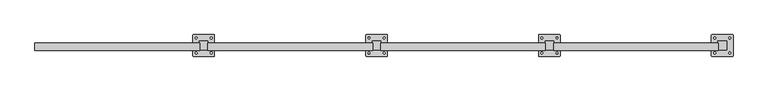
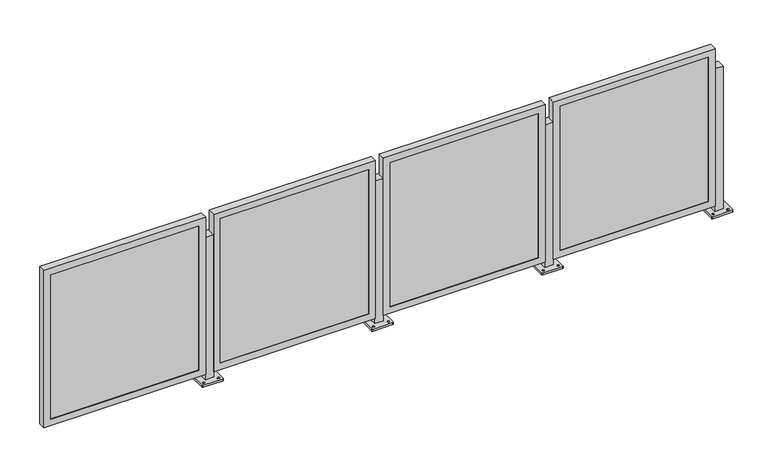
"""IFC4 building model written with IfcOpenShell, lengths in millimetres: railing geometry."""

from ifc_helpers import new_model, si_unit, frame, origin, place, context, project, spatial, polyline, circle_curve, outline, extrude, faceted_brep, source, transform, mapped, element, save
from ifc_brep_helpers import plane_surface, cylinder_surface, revolved_surface, advanced_brep


def railing_d92950a9(model_context):
    return source(origin(), model_context, "Body", "SolidModel", [
        advanced_brep(
        [(-3174.6460435, -9692.6420964, 914.4), (-3174.6460435, -9743.4420964, 914.4), (-3123.8460435, -9743.4420964, 914.4), (-3123.8460435, -9692.6420964, 914.4), (-3212.7460437, -9778.3670554, 0.0), (-3212.7460437, -9657.7171374, 0.0), (-3209.5710155, -9654.5421093, 0.0), (-3088.9210715, -9654.5421093, 0.0), (-3085.7460433, -9657.7171374, 0.0), (-3085.7460433, -9778.3670554, 0.0), (-3088.9210715, -9781.5420835, 0.0), (-3209.5710155, -9781.5420835, 0.0), (-3193.6960311, -9768.0483511, 0.0), (-3193.6960311, -9756.9358386, 0.0), (-3193.696042, -9679.1483467, 0.0), (-3193.696042, -9668.0358651, 0.0), (-3104.7960301, -9768.0483495, 0.0), (-3104.7960301, -9756.9358389, 0.0), (-3104.796041, -9679.1483452, 0.0), (-3104.796041, -9668.0358654, 0.0), (-3174.6460435, -9692.6420964, 12.7), (-3174.6460435, -9743.4420964, 12.7), (-3123.8460435, -9743.4420964, 12.7), (-3123.8460435, -9692.6420964, 12.7), (-3212.7460437, -9778.3670554, 12.7), (-3209.5710155, -9781.5420835, 12.7), (-3088.9210715, -9781.5420835, 12.7), (-3085.7460433, -9778.3670554, 12.7), (-3085.7460433, -9657.7171374, 12.7), (-3088.9210715, -9654.5421093, 12.7), (-3209.5710155, -9654.5421093, 12.7), (-3212.7460437, -9657.7171374, 12.7), (-3193.6960311, -9768.0483511, 12.7), (-3193.6960311, -9756.9358386, 12.7), (-3193.696042, -9679.1483467, 12.7), (-3193.696042, -9668.0358651, 12.7), (-3104.7960301, -9768.0483495, 12.7), (-3104.7960301, -9756.9358389, 12.7), (-3104.796041, -9679.1483452, 12.7), (-3104.796041, -9668.0358654, 12.7)],
        [
            (0, 1),
            (1, 2),
            (2, 3),
            (3, 0),
            (4, 5),
            (5, 6, circle_curve(frame((-3209.5710155, -9657.7171374, 0.0), z_axis=(0.0, 0.0, -1.0), x_axis=(0.0, 1.0, 0.0)), 3.1750282)),
            (6, 7),
            (7, 8, circle_curve(frame((-3088.9210715, -9657.7171374, 0.0), z_axis=(0.0, 0.0, -1.0), x_axis=(0.0, 1.0, 0.0)), 3.1750282)),
            (8, 9),
            (9, 10, circle_curve(frame((-3088.9210715, -9778.3670554, 0.0), z_axis=(0.0, 0.0, -1.0), x_axis=(0.0, 1.0, 0.0)), 3.1750282)),
            (10, 11),
            (11, 4, circle_curve(frame((-3209.5710155, -9778.3670554, 0.0), z_axis=(0.0, 0.0, -1.0), x_axis=(0.0, 1.0, 0.0)), 3.1750282)),
            (12, 13, circle_curve(frame((-3193.6960311, -9762.4920948, 0.0), z_axis=(0.0, 0.0, 1.0), x_axis=(0.0, 1.0, 0.0)), 5.5562562)),
            (13, 12, circle_curve(frame((-3193.6960311, -9762.4920948, 0.0), z_axis=(0.0, 0.0, 1.0), x_axis=(0.0, 1.0, 0.0)), 5.5562562)),
            (14, 15, circle_curve(frame((-3193.696042, -9673.5921059, 0.0), z_axis=(0.0, 0.0, 1.0), x_axis=(0.0, 1.0, 0.0)), 5.5562408)),
            (15, 14, circle_curve(frame((-3193.696042, -9673.5921059, 0.0), z_axis=(0.0, 0.0, 1.0), x_axis=(0.0, 1.0, 0.0)), 5.5562408)),
            (16, 17, circle_curve(frame((-3104.7960301, -9762.4920942, 0.0), z_axis=(0.0, 0.0, 1.0), x_axis=(0.0, 1.0, 0.0)), 5.5562553)),
            (17, 16, circle_curve(frame((-3104.7960301, -9762.4920942, 0.0), z_axis=(0.0, 0.0, 1.0), x_axis=(0.0, 1.0, 0.0)), 5.5562553)),
            (18, 19, circle_curve(frame((-3104.796041, -9673.5921053, 0.0), z_axis=(0.0, 0.0, 1.0), x_axis=(0.0, 1.0, 0.0)), 5.5562399)),
            (19, 18, circle_curve(frame((-3104.796041, -9673.5921053, 0.0), z_axis=(0.0, 0.0, 1.0), x_axis=(0.0, 1.0, 0.0)), 5.5562399)),
            (0, 20),
            (20, 21),
            (21, 1),
            (21, 22),
            (22, 2),
            (22, 23),
            (23, 3),
            (23, 20),
            (24, 25, circle_curve(frame((-3209.5710155, -9778.3670554, 12.7), z_axis=(0.0, 0.0, 1.0), x_axis=(0.0, 1.0, 0.0)), 3.1750282)),
            (25, 26),
            (26, 27, circle_curve(frame((-3088.9210715, -9778.3670554, 12.7), z_axis=(0.0, 0.0, 1.0), x_axis=(0.0, 1.0, 0.0)), 3.1750282)),
            (27, 28),
            (28, 29, circle_curve(frame((-3088.9210715, -9657.7171374, 12.7), z_axis=(0.0, 0.0, 1.0), x_axis=(0.0, 1.0, 0.0)), 3.1750282)),
            (29, 30),
            (30, 31, circle_curve(frame((-3209.5710155, -9657.7171374, 12.7), z_axis=(0.0, 0.0, 1.0), x_axis=(0.0, 1.0, 0.0)), 3.1750282)),
            (31, 24),
            (32, 33, circle_curve(frame((-3193.6960311, -9762.4920948, 12.7), z_axis=(0.0, 0.0, -1.0), x_axis=(0.0, 1.0, 0.0)), 5.5562562)),
            (33, 32, circle_curve(frame((-3193.6960311, -9762.4920948, 12.7), z_axis=(0.0, 0.0, -1.0), x_axis=(0.0, 1.0, 0.0)), 5.5562562)),
            (34, 35, circle_curve(frame((-3193.696042, -9673.5921059, 12.7), z_axis=(0.0, 0.0, -1.0), x_axis=(0.0, 1.0, 0.0)), 5.5562408)),
            (35, 34, circle_curve(frame((-3193.696042, -9673.5921059, 12.7), z_axis=(0.0, 0.0, -1.0), x_axis=(0.0, 1.0, 0.0)), 5.5562408)),
            (36, 37, circle_curve(frame((-3104.7960301, -9762.4920942, 12.7), z_axis=(0.0, 0.0, -1.0), x_axis=(0.0, 1.0, 0.0)), 5.5562553)),
            (37, 36, circle_curve(frame((-3104.7960301, -9762.4920942, 12.7), z_axis=(0.0, 0.0, -1.0), x_axis=(0.0, 1.0, 0.0)), 5.5562553)),
            (38, 39, circle_curve(frame((-3104.796041, -9673.5921053, 12.7), z_axis=(0.0, 0.0, -1.0), x_axis=(0.0, 1.0, 0.0)), 5.5562399)),
            (39, 38, circle_curve(frame((-3104.796041, -9673.5921053, 12.7), z_axis=(0.0, 0.0, -1.0), x_axis=(0.0, 1.0, 0.0)), 5.5562399)),
            (24, 4),
            (11, 25),
            (10, 26),
            (9, 27),
            (8, 28),
            (7, 29),
            (6, 30),
            (5, 31),
            (32, 12),
            (13, 33),
            (34, 14),
            (15, 35),
            (36, 16),
            (17, 37),
            (38, 18),
            (19, 39),
        ],
        [
            plane_surface(frame((-3174.6460435, -9743.4420964, 914.4), z_axis=(0.0, 0.0, 1.0), x_axis=(0.0, -1.0, 0.0))),
            plane_surface(frame((-3174.6460435, -9743.4420964, 0.0), z_axis=(0.0, 0.0, -1.0), x_axis=(0.0, 1.0, 0.0))),
            plane_surface(frame((-3174.6460435, -9692.6420964, 914.4), z_axis=(-1.0, 0.0, 0.0), x_axis=(0.0, 0.0, -1.0))),
            plane_surface(frame((-3174.6460435, -9743.4420964, 914.4), z_axis=(0.0, -1.0, 0.0), x_axis=(0.0, 0.0, -1.0))),
            plane_surface(frame((-3123.8460435, -9743.4420964, 914.4), z_axis=(1.0, 0.0, 0.0), x_axis=(0.0, 0.0, -1.0))),
            plane_surface(frame((-3123.8460435, -9692.6420964, 914.4), z_axis=(0.0, 1.0, 0.0), x_axis=(0.0, 0.0, -1.0))),
            plane_surface(frame((-3209.5710155, -9775.1920272, 12.7), z_axis=(0.0, 0.0, 1.0), x_axis=(-1.0, 0.0, 0.0))),
            cylinder_surface(frame((-3209.5710155, -9778.3670554, 0.0), z_axis=(0.0, 0.0, 1.0), x_axis=(0.0, 1.0, 0.0)), 3.1750282),
            plane_surface(frame((-3209.5710155, -9781.5420835, 12.7), z_axis=(1.1945386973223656e-12, -1.0, 0.0), x_axis=(0.0, 0.0, -1.0))),
            cylinder_surface(frame((-3088.9210715, -9778.3670554, 0.0), z_axis=(0.0, 0.0, 1.0), x_axis=(0.0, 1.0, 0.0)), 3.1750282),
            plane_surface(frame((-3085.7460433, -9778.3670554, 12.7), z_axis=(1.0, 0.0, 0.0), x_axis=(0.0, 0.0, -1.0))),
            cylinder_surface(frame((-3088.9210715, -9657.7171374, 0.0), z_axis=(0.0, 0.0, 1.0), x_axis=(0.0, 1.0, 0.0)), 3.1750282),
            plane_surface(frame((-3088.9210715, -9654.5421093, 12.7), z_axis=(-1.1946088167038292e-12, 1.0, 0.0), x_axis=(0.0, 0.0, -1.0))),
            cylinder_surface(frame((-3209.5710155, -9657.7171374, 0.0), z_axis=(0.0, 0.0, 1.0), x_axis=(0.0, 1.0, 0.0)), 3.1750282),
            plane_surface(frame((-3212.7460437, -9657.7171374, 12.7), z_axis=(-1.0, 0.0, 0.0), x_axis=(0.0, 0.0, -1.0))),
            revolved_surface(polyline([(-3193.6960311, -9756.9358386, 0.0), (-3193.6960311, -9756.9358386, 12.7)]), (-3193.6960311, -9762.4920948, 0.0), (0.0, 0.0, -1.0)),
            revolved_surface(polyline([(-3193.696042, -9668.035865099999, 0.0), (-3193.696042, -9668.035865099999, 12.7)]), (-3193.696042, -9673.5921059, 0.0), (0.0, 0.0, -1.0)),
            revolved_surface(polyline([(-3104.7960301, -9756.9358389, 0.0), (-3104.7960301, -9756.9358389, 12.7)]), (-3104.7960301, -9762.4920942, 0.0), (0.0, 0.0, -1.0)),
            revolved_surface(polyline([(-3104.796041, -9668.035865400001, 0.0), (-3104.796041, -9668.035865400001, 12.7)]), (-3104.796041, -9673.5921053, 0.0), (0.0, 0.0, -1.0)),
        ],
        [
            (0, [[1, 2, 3, 4]]),
            (1, [[5, 6, 7, 8, 9, 10, 11, 12], [13, 14], [15, 16], [17, 18], [19, 20]]),
            (2, [[-1, 21, 22, 23]]),
            (3, [[-2, -23, 24, 25]]),
            (4, [[-3, -25, 26, 27]]),
            (5, [[-4, -27, 28, -21]]),
            (6, [[29, 30, 31, 32, 33, 34, 35, 36], [-22, -28, -26, -24], [37, 38], [39, 40], [41, 42], [43, 44]]),
            (7, [[-29, 45, -12, 46]]),
            (8, [[-30, -46, -11, 47]]),
            (9, [[-31, -47, -10, 48]]),
            (10, [[-32, -48, -9, 49]]),
            (11, [[-33, -49, -8, 50]]),
            (12, [[-34, -50, -7, 51]]),
            (13, [[-35, -51, -6, 52]]),
            (14, [[-36, -52, -5, -45]]),
            (15, [[-37, 53, -14, 54]]),
            (15, [[-38, -54, -13, -53]]),
            (16, [[-39, 55, -16, 56]]),
            (16, [[-40, -56, -15, -55]]),
            (17, [[-41, 57, -18, 58]]),
            (17, [[-42, -58, -17, -57]]),
            (18, [[-43, 59, -20, 60]]),
            (18, [[-44, -60, -19, -59]]),
        ],
    ),
        faceted_brep([(-4141.0504969, -9746.1852964, 47.625), (-3172.6754969, -9746.1852964, 47.625), (-3172.6754969, -9746.1852964, 1044.575), (-4141.0504969, -9746.1852964, 1044.575), (-4099.7754969, -9746.1852964, 1003.3), (-3213.9504969, -9746.1852964, 1003.3), (-3213.9504969, -9746.1852964, 88.9), (-4099.7754969, -9746.1852964, 88.9), (-4099.7754969, -9743.4420964, 1003.3), (-4099.7754969, -9743.4420964, 88.9), (-4141.0504969, -9702.3119999, 1044.575), (-4141.0504969, -9702.3119999, 47.625), (-4137.8754969, -9702.3119999, 1041.4), (-4137.8754969, -9743.4420964, 1041.4), (-4137.8754969, -9743.4420964, 50.8), (-4137.8754969, -9702.3119999, 50.8), (-3213.9504969, -9743.4420964, 88.9), (-3172.6754969, -9702.3119999, 47.625), (-3175.8504969, -9743.4420964, 50.8), (-3175.8504969, -9702.3119999, 50.8), (-3213.9504969, -9743.4420964, 1003.3), (-3172.6754969, -9702.3119999, 1044.575), (-3175.8504969, -9743.4420964, 1041.4), (-3175.8504969, -9702.3119999, 1041.4)], [[[0, 1, 2, 3], [4, 5, 6, 7]], [[8, 4, 7, 9]], [[3, 10, 11, 0]], [[12, 13, 14, 15]], [[9, 7, 6, 16]], [[0, 11, 17, 1]], [[15, 14, 18, 19]], [[16, 6, 5, 20]], [[1, 17, 21, 2]], [[19, 18, 22, 23]], [[20, 5, 4, 8]], [[10, 21, 17, 11], [15, 19, 23, 12]], [[2, 21, 10, 3]], [[13, 22, 18, 14], [9, 16, 20, 8]], [[23, 22, 13, 12]]]),
        extrude(outline(polyline([(-4137.8754969, -9733.9170964), (-3175.8504969, -9733.9170964), (-3175.8504969, -9743.4420964), (-4137.8754969, -9743.4420964), (-4137.8754969, -9733.9170964)])), frame((0.0, 0.0, 50.8), z_axis=(0.0, 0.0, 1.0), x_axis=(1.0, 0.0, 0.0)), (0.0, 0.0, 1.0), 990.6),
        advanced_brep(
        [(-4190.6460435, -9692.6420964, 914.4), (-4190.6460435, -9743.4420964, 914.4), (-4139.8460435, -9743.4420964, 914.4), (-4139.8460435, -9692.6420964, 914.4), (-4228.7460437, -9778.3670554, 0.0), (-4228.7460437, -9657.7171374, 0.0), (-4225.5710155, -9654.5421093, 0.0), (-4104.9210715, -9654.5421093, 0.0), (-4101.7460433, -9657.7171374, 0.0), (-4101.7460433, -9778.3670554, 0.0), (-4104.9210715, -9781.5420835, 0.0), (-4225.5710155, -9781.5420835, 0.0), (-4209.6960311, -9768.0483511, 0.0), (-4209.6960311, -9756.9358386, 0.0), (-4209.696042, -9679.1483467, 0.0), (-4209.696042, -9668.0358651, 0.0), (-4120.7960301, -9768.0483495, 0.0), (-4120.7960301, -9756.9358389, 0.0), (-4120.796041, -9679.1483452, 0.0), (-4120.796041, -9668.0358654, 0.0), (-4190.6460435, -9692.6420964, 12.7), (-4190.6460435, -9743.4420964, 12.7), (-4139.8460435, -9743.4420964, 12.7), (-4139.8460435, -9692.6420964, 12.7), (-4228.7460437, -9778.3670554, 12.7), (-4225.5710155, -9781.5420835, 12.7), (-4104.9210715, -9781.5420835, 12.7), (-4101.7460433, -9778.3670554, 12.7), (-4101.7460433, -9657.7171374, 12.7), (-4104.9210715, -9654.5421093, 12.7), (-4225.5710155, -9654.5421093, 12.7), (-4228.7460437, -9657.7171374, 12.7), (-4209.6960311, -9768.0483511, 12.7), (-4209.6960311, -9756.9358386, 12.7), (-4209.696042, -9679.1483467, 12.7), (-4209.696042, -9668.0358651, 12.7), (-4120.7960301, -9768.0483495, 12.7), (-4120.7960301, -9756.9358389, 12.7), (-4120.796041, -9679.1483452, 12.7), (-4120.796041, -9668.0358654, 12.7)],
        [
            (0, 1),
            (1, 2),
            (2, 3),
            (3, 0),
            (4, 5),
            (5, 6, circle_curve(frame((-4225.5710155, -9657.7171374, 0.0), z_axis=(0.0, 0.0, -1.0), x_axis=(0.0, 1.0, 0.0)), 3.1750282)),
            (6, 7),
            (7, 8, circle_curve(frame((-4104.9210715, -9657.7171374, 0.0), z_axis=(0.0, 0.0, -1.0), x_axis=(0.0, 1.0, 0.0)), 3.1750282)),
            (8, 9),
            (9, 10, circle_curve(frame((-4104.9210715, -9778.3670554, 0.0), z_axis=(0.0, 0.0, -1.0), x_axis=(0.0, 1.0, 0.0)), 3.1750282)),
            (10, 11),
            (11, 4, circle_curve(frame((-4225.5710155, -9778.3670554, 0.0), z_axis=(0.0, 0.0, -1.0), x_axis=(0.0, 1.0, 0.0)), 3.1750282)),
            (12, 13, circle_curve(frame((-4209.6960311, -9762.4920948, 0.0), z_axis=(0.0, 0.0, 1.0), x_axis=(0.0, 1.0, 0.0)), 5.5562562)),
            (13, 12, circle_curve(frame((-4209.6960311, -9762.4920948, 0.0), z_axis=(0.0, 0.0, 1.0), x_axis=(0.0, 1.0, 0.0)), 5.5562562)),
            (14, 15, circle_curve(frame((-4209.696042, -9673.5921059, 0.0), z_axis=(0.0, 0.0, 1.0), x_axis=(0.0, 1.0, 0.0)), 5.5562408)),
            (15, 14, circle_curve(frame((-4209.696042, -9673.5921059, 0.0), z_axis=(0.0, 0.0, 1.0), x_axis=(0.0, 1.0, 0.0)), 5.5562408)),
            (16, 17, circle_curve(frame((-4120.7960301, -9762.4920942, 0.0), z_axis=(0.0, 0.0, 1.0), x_axis=(0.0, 1.0, 0.0)), 5.5562553)),
            (17, 16, circle_curve(frame((-4120.7960301, -9762.4920942, 0.0), z_axis=(0.0, 0.0, 1.0), x_axis=(0.0, 1.0, 0.0)), 5.5562553)),
            (18, 19, circle_curve(frame((-4120.796041, -9673.5921053, 0.0), z_axis=(0.0, 0.0, 1.0), x_axis=(0.0, 1.0, 0.0)), 5.5562399)),
            (19, 18, circle_curve(frame((-4120.796041, -9673.5921053, 0.0), z_axis=(0.0, 0.0, 1.0), x_axis=(0.0, 1.0, 0.0)), 5.5562399)),
            (0, 20),
            (20, 21),
            (21, 1),
            (21, 22),
            (22, 2),
            (22, 23),
            (23, 3),
            (23, 20),
            (24, 25, circle_curve(frame((-4225.5710155, -9778.3670554, 12.7), z_axis=(0.0, 0.0, 1.0), x_axis=(0.0, 1.0, 0.0)), 3.1750282)),
            (25, 26),
            (26, 27, circle_curve(frame((-4104.9210715, -9778.3670554, 12.7), z_axis=(0.0, 0.0, 1.0), x_axis=(0.0, 1.0, 0.0)), 3.1750282)),
            (27, 28),
            (28, 29, circle_curve(frame((-4104.9210715, -9657.7171374, 12.7), z_axis=(0.0, 0.0, 1.0), x_axis=(0.0, 1.0, 0.0)), 3.1750282)),
            (29, 30),
            (30, 31, circle_curve(frame((-4225.5710155, -9657.7171374, 12.7), z_axis=(0.0, 0.0, 1.0), x_axis=(0.0, 1.0, 0.0)), 3.1750282)),
            (31, 24),
            (32, 33, circle_curve(frame((-4209.6960311, -9762.4920948, 12.7), z_axis=(0.0, 0.0, -1.0), x_axis=(0.0, 1.0, 0.0)), 5.5562562)),
            (33, 32, circle_curve(frame((-4209.6960311, -9762.4920948, 12.7), z_axis=(0.0, 0.0, -1.0), x_axis=(0.0, 1.0, 0.0)), 5.5562562)),
            (34, 35, circle_curve(frame((-4209.696042, -9673.5921059, 12.7), z_axis=(0.0, 0.0, -1.0), x_axis=(0.0, 1.0, 0.0)), 5.5562408)),
            (35, 34, circle_curve(frame((-4209.696042, -9673.5921059, 12.7), z_axis=(0.0, 0.0, -1.0), x_axis=(0.0, 1.0, 0.0)), 5.5562408)),
            (36, 37, circle_curve(frame((-4120.7960301, -9762.4920942, 12.7), z_axis=(0.0, 0.0, -1.0), x_axis=(0.0, 1.0, 0.0)), 5.5562553)),
            (37, 36, circle_curve(frame((-4120.7960301, -9762.4920942, 12.7), z_axis=(0.0, 0.0, -1.0), x_axis=(0.0, 1.0, 0.0)), 5.5562553)),
            (38, 39, circle_curve(frame((-4120.796041, -9673.5921053, 12.7), z_axis=(0.0, 0.0, -1.0), x_axis=(0.0, 1.0, 0.0)), 5.5562399)),
            (39, 38, circle_curve(frame((-4120.796041, -9673.5921053, 12.7), z_axis=(0.0, 0.0, -1.0), x_axis=(0.0, 1.0, 0.0)), 5.5562399)),
            (24, 4),
            (11, 25),
            (10, 26),
            (9, 27),
            (8, 28),
            (7, 29),
            (6, 30),
            (5, 31),
            (32, 12),
            (13, 33),
            (34, 14),
            (15, 35),
            (36, 16),
            (17, 37),
            (38, 18),
            (19, 39),
        ],
        [
            plane_surface(frame((-4190.6460435, -9743.4420964, 914.4), z_axis=(0.0, 0.0, 1.0), x_axis=(0.0, -1.0, 0.0))),
            plane_surface(frame((-4190.6460435, -9743.4420964, 0.0), z_axis=(0.0, 0.0, -1.0), x_axis=(0.0, 1.0, 0.0))),
            plane_surface(frame((-4190.6460435, -9692.6420964, 914.4), z_axis=(-1.0, 0.0, 0.0), x_axis=(0.0, 0.0, -1.0))),
            plane_surface(frame((-4190.6460435, -9743.4420964, 914.4), z_axis=(0.0, -1.0, 0.0), x_axis=(0.0, 0.0, -1.0))),
            plane_surface(frame((-4139.8460435, -9743.4420964, 914.4), z_axis=(1.0, 0.0, 0.0), x_axis=(0.0, 0.0, -1.0))),
            plane_surface(frame((-4139.8460435, -9692.6420964, 914.4), z_axis=(0.0, 1.0, 0.0), x_axis=(0.0, 0.0, -1.0))),
            plane_surface(frame((-4225.5710155, -9775.1920272, 12.7), z_axis=(0.0, 0.0, 1.0), x_axis=(-1.0, 0.0, 0.0))),
            cylinder_surface(frame((-4225.5710155, -9778.3670554, 0.0), z_axis=(0.0, 0.0, 1.0), x_axis=(0.0, 1.0, 0.0)), 3.1750282),
            plane_surface(frame((-4225.5710155, -9781.5420835, 12.7), z_axis=(1.1945386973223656e-12, -1.0, 0.0), x_axis=(0.0, 0.0, -1.0))),
            cylinder_surface(frame((-4104.9210715, -9778.3670554, 0.0), z_axis=(0.0, 0.0, 1.0), x_axis=(0.0, 1.0, 0.0)), 3.1750282),
            plane_surface(frame((-4101.7460433, -9778.3670554, 12.7), z_axis=(1.0, 0.0, 0.0), x_axis=(0.0, 0.0, -1.0))),
            cylinder_surface(frame((-4104.9210715, -9657.7171374, 0.0), z_axis=(0.0, 0.0, 1.0), x_axis=(0.0, 1.0, 0.0)), 3.1750282),
            plane_surface(frame((-4104.9210715, -9654.5421093, 12.7), z_axis=(-1.1946088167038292e-12, 1.0, 0.0), x_axis=(0.0, 0.0, -1.0))),
            cylinder_surface(frame((-4225.5710155, -9657.7171374, 0.0), z_axis=(0.0, 0.0, 1.0), x_axis=(0.0, 1.0, 0.0)), 3.1750282),
            plane_surface(frame((-4228.7460437, -9657.7171374, 12.7), z_axis=(-1.0, 0.0, 0.0), x_axis=(0.0, 0.0, -1.0))),
            revolved_surface(polyline([(-4209.6960311, -9756.9358386, 0.0), (-4209.6960311, -9756.9358386, 12.7)]), (-4209.6960311, -9762.4920948, 0.0), (0.0, 0.0, -1.0)),
            revolved_surface(polyline([(-4209.696042, -9668.035865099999, 0.0), (-4209.696042, -9668.035865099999, 12.7)]), (-4209.696042, -9673.5921059, 0.0), (0.0, 0.0, -1.0)),
            revolved_surface(polyline([(-4120.7960301, -9756.9358389, 0.0), (-4120.7960301, -9756.9358389, 12.7)]), (-4120.7960301, -9762.4920942, 0.0), (0.0, 0.0, -1.0)),
            revolved_surface(polyline([(-4120.796041, -9668.035865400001, 0.0), (-4120.796041, -9668.035865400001, 12.7)]), (-4120.796041, -9673.5921053, 0.0), (0.0, 0.0, -1.0)),
        ],
        [
            (0, [[1, 2, 3, 4]]),
            (1, [[5, 6, 7, 8, 9, 10, 11, 12], [13, 14], [15, 16], [17, 18], [19, 20]]),
            (2, [[-1, 21, 22, 23]]),
            (3, [[-2, -23, 24, 25]]),
            (4, [[-3, -25, 26, 27]]),
            (5, [[-4, -27, 28, -21]]),
            (6, [[29, 30, 31, 32, 33, 34, 35, 36], [-22, -28, -26, -24], [37, 38], [39, 40], [41, 42], [43, 44]]),
            (7, [[-29, 45, -12, 46]]),
            (8, [[-30, -46, -11, 47]]),
            (9, [[-31, -47, -10, 48]]),
            (10, [[-32, -48, -9, 49]]),
            (11, [[-33, -49, -8, 50]]),
            (12, [[-34, -50, -7, 51]]),
            (13, [[-35, -51, -6, 52]]),
            (14, [[-36, -52, -5, -45]]),
            (15, [[-37, 53, -14, 54]]),
            (15, [[-38, -54, -13, -53]]),
            (16, [[-39, 55, -16, 56]]),
            (16, [[-40, -56, -15, -55]]),
            (17, [[-41, 57, -18, 58]]),
            (17, [[-42, -58, -17, -57]]),
            (18, [[-43, 59, -20, 60]]),
            (18, [[-44, -60, -19, -59]]),
        ],
    ),
        faceted_brep([(-5157.0504969, -9746.1852964, 47.625), (-4188.6754969, -9746.1852964, 47.625), (-4188.6754969, -9746.1852964, 1044.575), (-5157.0504969, -9746.1852964, 1044.575), (-5115.7754969, -9746.1852964, 1003.3), (-4229.9504969, -9746.1852964, 1003.3), (-4229.9504969, -9746.1852964, 88.9), (-5115.7754969, -9746.1852964, 88.9), (-5115.7754969, -9743.4420964, 1003.3), (-5115.7754969, -9743.4420964, 88.9), (-5157.0504969, -9702.3119999, 1044.575), (-5157.0504969, -9702.3119999, 47.625), (-5153.8754969, -9702.3119999, 1041.4), (-5153.8754969, -9743.4420964, 1041.4), (-5153.8754969, -9743.4420964, 50.8), (-5153.8754969, -9702.3119999, 50.8), (-4229.9504969, -9743.4420964, 88.9), (-4188.6754969, -9702.3119999, 47.625), (-4191.8504969, -9743.4420964, 50.8), (-4191.8504969, -9702.3119999, 50.8), (-4229.9504969, -9743.4420964, 1003.3), (-4188.6754969, -9702.3119999, 1044.575), (-4191.8504969, -9743.4420964, 1041.4), (-4191.8504969, -9702.3119999, 1041.4)], [[[0, 1, 2, 3], [4, 5, 6, 7]], [[8, 4, 7, 9]], [[3, 10, 11, 0]], [[12, 13, 14, 15]], [[9, 7, 6, 16]], [[0, 11, 17, 1]], [[15, 14, 18, 19]], [[16, 6, 5, 20]], [[1, 17, 21, 2]], [[19, 18, 22, 23]], [[20, 5, 4, 8]], [[10, 21, 17, 11], [15, 19, 23, 12]], [[2, 21, 10, 3]], [[13, 22, 18, 14], [9, 16, 20, 8]], [[23, 22, 13, 12]]]),
        extrude(outline(polyline([(-5153.8754969, -9733.9170964), (-4191.8504969, -9733.9170964), (-4191.8504969, -9743.4420964), (-5153.8754969, -9743.4420964), (-5153.8754969, -9733.9170964)])), frame((0.0, 0.0, 50.8), z_axis=(0.0, 0.0, 1.0), x_axis=(1.0, 0.0, 0.0)), (0.0, 0.0, 1.0), 990.6),
        advanced_brep(
        [(-5206.6460435, -9692.6420964, 914.4), (-5206.6460435, -9743.4420964, 914.4), (-5155.8460435, -9743.4420964, 914.4), (-5155.8460435, -9692.6420964, 914.4), (-5244.7460437, -9778.3670554, 0.0), (-5244.7460437, -9657.7171374, 0.0), (-5241.5710155, -9654.5421093, 0.0), (-5120.9210715, -9654.5421093, 0.0), (-5117.7460433, -9657.7171374, 0.0), (-5117.7460433, -9778.3670554, 0.0), (-5120.9210715, -9781.5420835, 0.0), (-5241.5710155, -9781.5420835, 0.0), (-5225.6960311, -9768.0483511, 0.0), (-5225.6960311, -9756.9358386, 0.0), (-5225.696042, -9679.1483467, 0.0), (-5225.696042, -9668.0358651, 0.0), (-5136.7960301, -9768.0483495, 0.0), (-5136.7960301, -9756.9358389, 0.0), (-5136.796041, -9679.1483452, 0.0), (-5136.796041, -9668.0358654, 0.0), (-5206.6460435, -9692.6420964, 12.7), (-5206.6460435, -9743.4420964, 12.7), (-5155.8460435, -9743.4420964, 12.7), (-5155.8460435, -9692.6420964, 12.7), (-5244.7460437, -9778.3670554, 12.7), (-5241.5710155, -9781.5420835, 12.7), (-5120.9210715, -9781.5420835, 12.7), (-5117.7460433, -9778.3670554, 12.7), (-5117.7460433, -9657.7171374, 12.7), (-5120.9210715, -9654.5421093, 12.7), (-5241.5710155, -9654.5421093, 12.7), (-5244.7460437, -9657.7171374, 12.7), (-5225.6960311, -9768.0483511, 12.7), (-5225.6960311, -9756.9358386, 12.7), (-5225.696042, -9679.1483467, 12.7), (-5225.696042, -9668.0358651, 12.7), (-5136.7960301, -9768.0483495, 12.7), (-5136.7960301, -9756.9358389, 12.7), (-5136.796041, -9679.1483452, 12.7), (-5136.796041, -9668.0358654, 12.7)],
        [
            (0, 1),
            (1, 2),
            (2, 3),
            (3, 0),
            (4, 5),
            (5, 6, circle_curve(frame((-5241.5710155, -9657.7171374, 0.0), z_axis=(0.0, 0.0, -1.0), x_axis=(0.0, 1.0, 0.0)), 3.1750282)),
            (6, 7),
            (7, 8, circle_curve(frame((-5120.9210715, -9657.7171374, 0.0), z_axis=(0.0, 0.0, -1.0), x_axis=(0.0, 1.0, 0.0)), 3.1750282)),
            (8, 9),
            (9, 10, circle_curve(frame((-5120.9210715, -9778.3670554, 0.0), z_axis=(0.0, 0.0, -1.0), x_axis=(0.0, 1.0, 0.0)), 3.1750282)),
            (10, 11),
            (11, 4, circle_curve(frame((-5241.5710155, -9778.3670554, 0.0), z_axis=(0.0, 0.0, -1.0), x_axis=(0.0, 1.0, 0.0)), 3.1750282)),
            (12, 13, circle_curve(frame((-5225.6960311, -9762.4920948, 0.0), z_axis=(0.0, 0.0, 1.0), x_axis=(0.0, 1.0, 0.0)), 5.5562562)),
            (13, 12, circle_curve(frame((-5225.6960311, -9762.4920948, 0.0), z_axis=(0.0, 0.0, 1.0), x_axis=(0.0, 1.0, 0.0)), 5.5562562)),
            (14, 15, circle_curve(frame((-5225.696042, -9673.5921059, 0.0), z_axis=(0.0, 0.0, 1.0), x_axis=(0.0, 1.0, 0.0)), 5.5562408)),
            (15, 14, circle_curve(frame((-5225.696042, -9673.5921059, 0.0), z_axis=(0.0, 0.0, 1.0), x_axis=(0.0, 1.0, 0.0)), 5.5562408)),
            (16, 17, circle_curve(frame((-5136.7960301, -9762.4920942, 0.0), z_axis=(0.0, 0.0, 1.0), x_axis=(0.0, 1.0, 0.0)), 5.5562553)),
            (17, 16, circle_curve(frame((-5136.7960301, -9762.4920942, 0.0), z_axis=(0.0, 0.0, 1.0), x_axis=(0.0, 1.0, 0.0)), 5.5562553)),
            (18, 19, circle_curve(frame((-5136.796041, -9673.5921053, 0.0), z_axis=(0.0, 0.0, 1.0), x_axis=(0.0, 1.0, 0.0)), 5.5562399)),
            (19, 18, circle_curve(frame((-5136.796041, -9673.5921053, 0.0), z_axis=(0.0, 0.0, 1.0), x_axis=(0.0, 1.0, 0.0)), 5.5562399)),
            (0, 20),
            (20, 21),
            (21, 1),
            (21, 22),
            (22, 2),
            (22, 23),
            (23, 3),
            (23, 20),
            (24, 25, circle_curve(frame((-5241.5710155, -9778.3670554, 12.7), z_axis=(0.0, 0.0, 1.0), x_axis=(0.0, 1.0, 0.0)), 3.1750282)),
            (25, 26),
            (26, 27, circle_curve(frame((-5120.9210715, -9778.3670554, 12.7), z_axis=(0.0, 0.0, 1.0), x_axis=(0.0, 1.0, 0.0)), 3.1750282)),
            (27, 28),
            (28, 29, circle_curve(frame((-5120.9210715, -9657.7171374, 12.7), z_axis=(0.0, 0.0, 1.0), x_axis=(0.0, 1.0, 0.0)), 3.1750282)),
            (29, 30),
            (30, 31, circle_curve(frame((-5241.5710155, -9657.7171374, 12.7), z_axis=(0.0, 0.0, 1.0), x_axis=(0.0, 1.0, 0.0)), 3.1750282)),
            (31, 24),
            (32, 33, circle_curve(frame((-5225.6960311, -9762.4920948, 12.7), z_axis=(0.0, 0.0, -1.0), x_axis=(0.0, 1.0, 0.0)), 5.5562562)),
            (33, 32, circle_curve(frame((-5225.6960311, -9762.4920948, 12.7), z_axis=(0.0, 0.0, -1.0), x_axis=(0.0, 1.0, 0.0)), 5.5562562)),
            (34, 35, circle_curve(frame((-5225.696042, -9673.5921059, 12.7), z_axis=(0.0, 0.0, -1.0), x_axis=(0.0, 1.0, 0.0)), 5.5562408)),
            (35, 34, circle_curve(frame((-5225.696042, -9673.5921059, 12.7), z_axis=(0.0, 0.0, -1.0), x_axis=(0.0, 1.0, 0.0)), 5.5562408)),
            (36, 37, circle_curve(frame((-5136.7960301, -9762.4920942, 12.7), z_axis=(0.0, 0.0, -1.0), x_axis=(0.0, 1.0, 0.0)), 5.5562553)),
            (37, 36, circle_curve(frame((-5136.7960301, -9762.4920942, 12.7), z_axis=(0.0, 0.0, -1.0), x_axis=(0.0, 1.0, 0.0)), 5.5562553)),
            (38, 39, circle_curve(frame((-5136.796041, -9673.5921053, 12.7), z_axis=(0.0, 0.0, -1.0), x_axis=(0.0, 1.0, 0.0)), 5.5562399)),
            (39, 38, circle_curve(frame((-5136.796041, -9673.5921053, 12.7), z_axis=(0.0, 0.0, -1.0), x_axis=(0.0, 1.0, 0.0)), 5.5562399)),
            (24, 4),
            (11, 25),
            (10, 26),
            (9, 27),
            (8, 28),
            (7, 29),
            (6, 30),
            (5, 31),
            (32, 12),
            (13, 33),
            (34, 14),
            (15, 35),
            (36, 16),
            (17, 37),
            (38, 18),
            (19, 39),
        ],
        [
            plane_surface(frame((-5206.6460435, -9743.4420964, 914.4), z_axis=(0.0, 0.0, 1.0), x_axis=(0.0, -1.0, 0.0))),
            plane_surface(frame((-5206.6460435, -9743.4420964, 0.0), z_axis=(0.0, 0.0, -1.0), x_axis=(0.0, 1.0, 0.0))),
            plane_surface(frame((-5206.6460435, -9692.6420964, 914.4), z_axis=(-1.0, 0.0, 0.0), x_axis=(0.0, 0.0, -1.0))),
            plane_surface(frame((-5206.6460435, -9743.4420964, 914.4), z_axis=(0.0, -1.0, 0.0), x_axis=(0.0, 0.0, -1.0))),
            plane_surface(frame((-5155.8460435, -9743.4420964, 914.4), z_axis=(1.0, 0.0, 0.0), x_axis=(0.0, 0.0, -1.0))),
            plane_surface(frame((-5155.8460435, -9692.6420964, 914.4), z_axis=(0.0, 1.0, 0.0), x_axis=(0.0, 0.0, -1.0))),
            plane_surface(frame((-5241.5710155, -9775.1920272, 12.7), z_axis=(0.0, 0.0, 1.0), x_axis=(-1.0, 0.0, 0.0))),
            cylinder_surface(frame((-5241.5710155, -9778.3670554, 0.0), z_axis=(0.0, 0.0, 1.0), x_axis=(0.0, 1.0, 0.0)), 3.1750282),
            plane_surface(frame((-5241.5710155, -9781.5420835, 12.7), z_axis=(1.1945386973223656e-12, -1.0, 0.0), x_axis=(0.0, 0.0, -1.0))),
            cylinder_surface(frame((-5120.9210715, -9778.3670554, 0.0), z_axis=(0.0, 0.0, 1.0), x_axis=(0.0, 1.0, 0.0)), 3.1750282),
            plane_surface(frame((-5117.7460433, -9778.3670554, 12.7), z_axis=(1.0, 0.0, 0.0), x_axis=(0.0, 0.0, -1.0))),
            cylinder_surface(frame((-5120.9210715, -9657.7171374, 0.0), z_axis=(0.0, 0.0, 1.0), x_axis=(0.0, 1.0, 0.0)), 3.1750282),
            plane_surface(frame((-5120.9210715, -9654.5421093, 12.7), z_axis=(-1.1946088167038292e-12, 1.0, 0.0), x_axis=(0.0, 0.0, -1.0))),
            cylinder_surface(frame((-5241.5710155, -9657.7171374, 0.0), z_axis=(0.0, 0.0, 1.0), x_axis=(0.0, 1.0, 0.0)), 3.1750282),
            plane_surface(frame((-5244.7460437, -9657.7171374, 12.7), z_axis=(-1.0, 0.0, 0.0), x_axis=(0.0, 0.0, -1.0))),
            revolved_surface(polyline([(-5225.6960311, -9756.9358386, 0.0), (-5225.6960311, -9756.9358386, 12.7)]), (-5225.6960311, -9762.4920948, 0.0), (0.0, 0.0, -1.0)),
            revolved_surface(polyline([(-5225.696042, -9668.035865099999, 0.0), (-5225.696042, -9668.035865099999, 12.7)]), (-5225.696042, -9673.5921059, 0.0), (0.0, 0.0, -1.0)),
            revolved_surface(polyline([(-5136.7960301, -9756.9358389, 0.0), (-5136.7960301, -9756.9358389, 12.7)]), (-5136.7960301, -9762.4920942, 0.0), (0.0, 0.0, -1.0)),
            revolved_surface(polyline([(-5136.796041, -9668.035865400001, 0.0), (-5136.796041, -9668.035865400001, 12.7)]), (-5136.796041, -9673.5921053, 0.0), (0.0, 0.0, -1.0)),
        ],
        [
            (0, [[1, 2, 3, 4]]),
            (1, [[5, 6, 7, 8, 9, 10, 11, 12], [13, 14], [15, 16], [17, 18], [19, 20]]),
            (2, [[-1, 21, 22, 23]]),
            (3, [[-2, -23, 24, 25]]),
            (4, [[-3, -25, 26, 27]]),
            (5, [[-4, -27, 28, -21]]),
            (6, [[29, 30, 31, 32, 33, 34, 35, 36], [-22, -28, -26, -24], [37, 38], [39, 40], [41, 42], [43, 44]]),
            (7, [[-29, 45, -12, 46]]),
            (8, [[-30, -46, -11, 47]]),
            (9, [[-31, -47, -10, 48]]),
            (10, [[-32, -48, -9, 49]]),
            (11, [[-33, -49, -8, 50]]),
            (12, [[-34, -50, -7, 51]]),
            (13, [[-35, -51, -6, 52]]),
            (14, [[-36, -52, -5, -45]]),
            (15, [[-37, 53, -14, 54]]),
            (15, [[-38, -54, -13, -53]]),
            (16, [[-39, 55, -16, 56]]),
            (16, [[-40, -56, -15, -55]]),
            (17, [[-41, 57, -18, 58]]),
            (17, [[-42, -58, -17, -57]]),
            (18, [[-43, 59, -20, 60]]),
            (18, [[-44, -60, -19, -59]]),
        ],
    ),
        faceted_brep([(-6173.0504969, -9746.1852964, 47.625), (-5204.6754969, -9746.1852964, 47.625), (-5204.6754969, -9746.1852964, 1044.575), (-6173.0504969, -9746.1852964, 1044.575), (-6131.7754969, -9746.1852964, 1003.3), (-5245.9504969, -9746.1852964, 1003.3), (-5245.9504969, -9746.1852964, 88.9), (-6131.7754969, -9746.1852964, 88.9), (-6131.7754969, -9743.4420964, 1003.3), (-6131.7754969, -9743.4420964, 88.9), (-6173.0504969, -9702.3119999, 1044.575), (-6173.0504969, -9702.3119999, 47.625), (-6169.8754969, -9702.3119999, 1041.4), (-6169.8754969, -9743.4420964, 1041.4), (-6169.8754969, -9743.4420964, 50.8), (-6169.8754969, -9702.3119999, 50.8), (-5245.9504969, -9743.4420964, 88.9), (-5204.6754969, -9702.3119999, 47.625), (-5207.8504969, -9743.4420964, 50.8), (-5207.8504969, -9702.3119999, 50.8), (-5245.9504969, -9743.4420964, 1003.3), (-5204.6754969, -9702.3119999, 1044.575), (-5207.8504969, -9743.4420964, 1041.4), (-5207.8504969, -9702.3119999, 1041.4)], [[[0, 1, 2, 3], [4, 5, 6, 7]], [[8, 4, 7, 9]], [[3, 10, 11, 0]], [[12, 13, 14, 15]], [[9, 7, 6, 16]], [[0, 11, 17, 1]], [[15, 14, 18, 19]], [[16, 6, 5, 20]], [[1, 17, 21, 2]], [[19, 18, 22, 23]], [[20, 5, 4, 8]], [[10, 21, 17, 11], [15, 19, 23, 12]], [[2, 21, 10, 3]], [[13, 22, 18, 14], [9, 16, 20, 8]], [[23, 22, 13, 12]]]),
        extrude(outline(polyline([(-6169.8754969, -9733.9170964), (-5207.8504969, -9733.9170964), (-5207.8504969, -9743.4420964), (-6169.8754969, -9743.4420964), (-6169.8754969, -9733.9170964)])), frame((0.0, 0.0, 50.8), z_axis=(0.0, 0.0, 1.0), x_axis=(1.0, 0.0, 0.0)), (0.0, 0.0, 1.0), 990.6),
        advanced_brep(
        [(-6222.6460435, -9692.6420964, 914.4), (-6222.6460435, -9743.4420964, 914.4), (-6171.8460435, -9743.4420964, 914.4), (-6171.8460435, -9692.6420964, 914.4), (-6260.7460437, -9778.3670554, 0.0), (-6260.7460437, -9657.7171374, 0.0), (-6257.5710155, -9654.5421093, 0.0), (-6136.9210715, -9654.5421093, 0.0), (-6133.7460433, -9657.7171374, 0.0), (-6133.7460433, -9778.3670554, 0.0), (-6136.9210715, -9781.5420835, 0.0), (-6257.5710155, -9781.5420835, 0.0), (-6241.6960311, -9768.0483511, 0.0), (-6241.6960311, -9756.9358386, 0.0), (-6241.696042, -9679.1483467, 0.0), (-6241.696042, -9668.0358651, 0.0), (-6152.7960301, -9768.0483495, 0.0), (-6152.7960301, -9756.9358389, 0.0), (-6152.796041, -9679.1483452, 0.0), (-6152.796041, -9668.0358654, 0.0), (-6222.6460435, -9692.6420964, 12.7), (-6222.6460435, -9743.4420964, 12.7), (-6171.8460435, -9743.4420964, 12.7), (-6171.8460435, -9692.6420964, 12.7), (-6260.7460437, -9778.3670554, 12.7), (-6257.5710155, -9781.5420835, 12.7), (-6136.9210715, -9781.5420835, 12.7), (-6133.7460433, -9778.3670554, 12.7), (-6133.7460433, -9657.7171374, 12.7), (-6136.9210715, -9654.5421093, 12.7), (-6257.5710155, -9654.5421093, 12.7), (-6260.7460437, -9657.7171374, 12.7), (-6241.6960311, -9768.0483511, 12.7), (-6241.6960311, -9756.9358386, 12.7), (-6241.696042, -9679.1483467, 12.7), (-6241.696042, -9668.0358651, 12.7), (-6152.7960301, -9768.0483495, 12.7), (-6152.7960301, -9756.9358389, 12.7), (-6152.796041, -9679.1483452, 12.7), (-6152.796041, -9668.0358654, 12.7)],
        [
            (0, 1),
            (1, 2),
            (2, 3),
            (3, 0),
            (4, 5),
            (5, 6, circle_curve(frame((-6257.5710155, -9657.7171374, 0.0), z_axis=(0.0, 0.0, -1.0), x_axis=(0.0, 1.0, 0.0)), 3.1750282)),
            (6, 7),
            (7, 8, circle_curve(frame((-6136.9210715, -9657.7171374, 0.0), z_axis=(0.0, 0.0, -1.0), x_axis=(0.0, 1.0, 0.0)), 3.1750282)),
            (8, 9),
            (9, 10, circle_curve(frame((-6136.9210715, -9778.3670554, 0.0), z_axis=(0.0, 0.0, -1.0), x_axis=(0.0, 1.0, 0.0)), 3.1750282)),
            (10, 11),
            (11, 4, circle_curve(frame((-6257.5710155, -9778.3670554, 0.0), z_axis=(0.0, 0.0, -1.0), x_axis=(0.0, 1.0, 0.0)), 3.1750282)),
            (12, 13, circle_curve(frame((-6241.6960311, -9762.4920948, 0.0), z_axis=(0.0, 0.0, 1.0), x_axis=(0.0, 1.0, 0.0)), 5.5562562)),
            (13, 12, circle_curve(frame((-6241.6960311, -9762.4920948, 0.0), z_axis=(0.0, 0.0, 1.0), x_axis=(0.0, 1.0, 0.0)), 5.5562562)),
            (14, 15, circle_curve(frame((-6241.696042, -9673.5921059, 0.0), z_axis=(0.0, 0.0, 1.0), x_axis=(0.0, 1.0, 0.0)), 5.5562408)),
            (15, 14, circle_curve(frame((-6241.696042, -9673.5921059, 0.0), z_axis=(0.0, 0.0, 1.0), x_axis=(0.0, 1.0, 0.0)), 5.5562408)),
            (16, 17, circle_curve(frame((-6152.7960301, -9762.4920942, 0.0), z_axis=(0.0, 0.0, 1.0), x_axis=(0.0, 1.0, 0.0)), 5.5562553)),
            (17, 16, circle_curve(frame((-6152.7960301, -9762.4920942, 0.0), z_axis=(0.0, 0.0, 1.0), x_axis=(0.0, 1.0, 0.0)), 5.5562553)),
            (18, 19, circle_curve(frame((-6152.796041, -9673.5921053, 0.0), z_axis=(0.0, 0.0, 1.0), x_axis=(0.0, 1.0, 0.0)), 5.5562399)),
            (19, 18, circle_curve(frame((-6152.796041, -9673.5921053, 0.0), z_axis=(0.0, 0.0, 1.0), x_axis=(0.0, 1.0, 0.0)), 5.5562399)),
            (0, 20),
            (20, 21),
            (21, 1),
            (21, 22),
            (22, 2),
            (22, 23),
            (23, 3),
            (23, 20),
            (24, 25, circle_curve(frame((-6257.5710155, -9778.3670554, 12.7), z_axis=(0.0, 0.0, 1.0), x_axis=(0.0, 1.0, 0.0)), 3.1750282)),
            (25, 26),
            (26, 27, circle_curve(frame((-6136.9210715, -9778.3670554, 12.7), z_axis=(0.0, 0.0, 1.0), x_axis=(0.0, 1.0, 0.0)), 3.1750282)),
            (27, 28),
            (28, 29, circle_curve(frame((-6136.9210715, -9657.7171374, 12.7), z_axis=(0.0, 0.0, 1.0), x_axis=(0.0, 1.0, 0.0)), 3.1750282)),
            (29, 30),
            (30, 31, circle_curve(frame((-6257.5710155, -9657.7171374, 12.7), z_axis=(0.0, 0.0, 1.0), x_axis=(0.0, 1.0, 0.0)), 3.1750282)),
            (31, 24),
            (32, 33, circle_curve(frame((-6241.6960311, -9762.4920948, 12.7), z_axis=(0.0, 0.0, -1.0), x_axis=(0.0, 1.0, 0.0)), 5.5562562)),
            (33, 32, circle_curve(frame((-6241.6960311, -9762.4920948, 12.7), z_axis=(0.0, 0.0, -1.0), x_axis=(0.0, 1.0, 0.0)), 5.5562562)),
            (34, 35, circle_curve(frame((-6241.696042, -9673.5921059, 12.7), z_axis=(0.0, 0.0, -1.0), x_axis=(0.0, 1.0, 0.0)), 5.5562408)),
            (35, 34, circle_curve(frame((-6241.696042, -9673.5921059, 12.7), z_axis=(0.0, 0.0, -1.0), x_axis=(0.0, 1.0, 0.0)), 5.5562408)),
            (36, 37, circle_curve(frame((-6152.7960301, -9762.4920942, 12.7), z_axis=(0.0, 0.0, -1.0), x_axis=(0.0, 1.0, 0.0)), 5.5562553)),
            (37, 36, circle_curve(frame((-6152.7960301, -9762.4920942, 12.7), z_axis=(0.0, 0.0, -1.0), x_axis=(0.0, 1.0, 0.0)), 5.5562553)),
            (38, 39, circle_curve(frame((-6152.796041, -9673.5921053, 12.7), z_axis=(0.0, 0.0, -1.0), x_axis=(0.0, 1.0, 0.0)), 5.5562399)),
            (39, 38, circle_curve(frame((-6152.796041, -9673.5921053, 12.7), z_axis=(0.0, 0.0, -1.0), x_axis=(0.0, 1.0, 0.0)), 5.5562399)),
            (24, 4),
            (11, 25),
            (10, 26),
            (9, 27),
            (8, 28),
            (7, 29),
            (6, 30),
            (5, 31),
            (32, 12),
            (13, 33),
            (34, 14),
            (15, 35),
            (36, 16),
            (17, 37),
            (38, 18),
            (19, 39),
        ],
        [
            plane_surface(frame((-6222.6460435, -9743.4420964, 914.4), z_axis=(0.0, 0.0, 1.0), x_axis=(0.0, -1.0, 0.0))),
            plane_surface(frame((-6222.6460435, -9743.4420964, 0.0), z_axis=(0.0, 0.0, -1.0), x_axis=(0.0, 1.0, 0.0))),
            plane_surface(frame((-6222.6460435, -9692.6420964, 914.4), z_axis=(-1.0, 0.0, 0.0), x_axis=(0.0, 0.0, -1.0))),
            plane_surface(frame((-6222.6460435, -9743.4420964, 914.4), z_axis=(0.0, -1.0, 0.0), x_axis=(0.0, 0.0, -1.0))),
            plane_surface(frame((-6171.8460435, -9743.4420964, 914.4), z_axis=(1.0, 0.0, 0.0), x_axis=(0.0, 0.0, -1.0))),
            plane_surface(frame((-6171.8460435, -9692.6420964, 914.4), z_axis=(0.0, 1.0, 0.0), x_axis=(0.0, 0.0, -1.0))),
            plane_surface(frame((-6257.5710155, -9775.1920272, 12.7), z_axis=(0.0, 0.0, 1.0), x_axis=(-1.0, 0.0, 0.0))),
            cylinder_surface(frame((-6257.5710155, -9778.3670554, 0.0), z_axis=(0.0, 0.0, 1.0), x_axis=(0.0, 1.0, 0.0)), 3.1750282),
            plane_surface(frame((-6257.5710155, -9781.5420835, 12.7), z_axis=(1.1945386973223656e-12, -1.0, 0.0), x_axis=(0.0, 0.0, -1.0))),
            cylinder_surface(frame((-6136.9210715, -9778.3670554, 0.0), z_axis=(0.0, 0.0, 1.0), x_axis=(0.0, 1.0, 0.0)), 3.1750282),
            plane_surface(frame((-6133.7460433, -9778.3670554, 12.7), z_axis=(1.0, 0.0, 0.0), x_axis=(0.0, 0.0, -1.0))),
            cylinder_surface(frame((-6136.9210715, -9657.7171374, 0.0), z_axis=(0.0, 0.0, 1.0), x_axis=(0.0, 1.0, 0.0)), 3.1750282),
            plane_surface(frame((-6136.9210715, -9654.5421093, 12.7), z_axis=(-1.1946088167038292e-12, 1.0, 0.0), x_axis=(0.0, 0.0, -1.0))),
            cylinder_surface(frame((-6257.5710155, -9657.7171374, 0.0), z_axis=(0.0, 0.0, 1.0), x_axis=(0.0, 1.0, 0.0)), 3.1750282),
            plane_surface(frame((-6260.7460437, -9657.7171374, 12.7), z_axis=(-1.0, 0.0, 0.0), x_axis=(0.0, 0.0, -1.0))),
            revolved_surface(polyline([(-6241.6960311, -9756.9358386, 0.0), (-6241.6960311, -9756.9358386, 12.7)]), (-6241.6960311, -9762.4920948, 0.0), (0.0, 0.0, -1.0)),
            revolved_surface(polyline([(-6241.696042, -9668.035865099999, 0.0), (-6241.696042, -9668.035865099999, 12.7)]), (-6241.696042, -9673.5921059, 0.0), (0.0, 0.0, -1.0)),
            revolved_surface(polyline([(-6152.7960301, -9756.9358389, 0.0), (-6152.7960301, -9756.9358389, 12.7)]), (-6152.7960301, -9762.4920942, 0.0), (0.0, 0.0, -1.0)),
            revolved_surface(polyline([(-6152.796041, -9668.035865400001, 0.0), (-6152.796041, -9668.035865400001, 12.7)]), (-6152.796041, -9673.5921053, 0.0), (0.0, 0.0, -1.0)),
        ],
        [
            (0, [[1, 2, 3, 4]]),
            (1, [[5, 6, 7, 8, 9, 10, 11, 12], [13, 14], [15, 16], [17, 18], [19, 20]]),
            (2, [[-1, 21, 22, 23]]),
            (3, [[-2, -23, 24, 25]]),
            (4, [[-3, -25, 26, 27]]),
            (5, [[-4, -27, 28, -21]]),
            (6, [[29, 30, 31, 32, 33, 34, 35, 36], [-22, -28, -26, -24], [37, 38], [39, 40], [41, 42], [43, 44]]),
            (7, [[-29, 45, -12, 46]]),
            (8, [[-30, -46, -11, 47]]),
            (9, [[-31, -47, -10, 48]]),
            (10, [[-32, -48, -9, 49]]),
            (11, [[-33, -49, -8, 50]]),
            (12, [[-34, -50, -7, 51]]),
            (13, [[-35, -51, -6, 52]]),
            (14, [[-36, -52, -5, -45]]),
            (15, [[-37, 53, -14, 54]]),
            (15, [[-38, -54, -13, -53]]),
            (16, [[-39, 55, -16, 56]]),
            (16, [[-40, -56, -15, -55]]),
            (17, [[-41, 57, -18, 58]]),
            (17, [[-42, -58, -17, -57]]),
            (18, [[-43, 59, -20, 60]]),
            (18, [[-44, -60, -19, -59]]),
        ],
    ),
        faceted_brep([(-7189.0504969, -9746.1852964, 47.625), (-6220.6754969, -9746.1852964, 47.625), (-6220.6754969, -9746.1852964, 1044.575), (-7189.0504969, -9746.1852964, 1044.575), (-7147.7754969, -9746.1852964, 1003.3), (-6261.9504969, -9746.1852964, 1003.3), (-6261.9504969, -9746.1852964, 88.9), (-7147.7754969, -9746.1852964, 88.9), (-7147.7754969, -9743.4420964, 1003.3), (-7147.7754969, -9743.4420964, 88.9), (-7189.0504969, -9702.3119999, 1044.575), (-7189.0504969, -9702.3119999, 47.625), (-7185.8754969, -9702.3119999, 1041.4), (-7185.8754969, -9743.4420964, 1041.4), (-7185.8754969, -9743.4420964, 50.8), (-7185.8754969, -9702.3119999, 50.8), (-6261.9504969, -9743.4420964, 88.9), (-6220.6754969, -9702.3119999, 47.625), (-6223.8504969, -9743.4420964, 50.8), (-6223.8504969, -9702.3119999, 50.8), (-6261.9504969, -9743.4420964, 1003.3), (-6220.6754969, -9702.3119999, 1044.575), (-6223.8504969, -9743.4420964, 1041.4), (-6223.8504969, -9702.3119999, 1041.4)], [[[0, 1, 2, 3], [4, 5, 6, 7]], [[8, 4, 7, 9]], [[3, 10, 11, 0]], [[12, 13, 14, 15]], [[9, 7, 6, 16]], [[0, 11, 17, 1]], [[15, 14, 18, 19]], [[16, 6, 5, 20]], [[1, 17, 21, 2]], [[19, 18, 22, 23]], [[20, 5, 4, 8]], [[10, 21, 17, 11], [15, 19, 23, 12]], [[2, 21, 10, 3]], [[13, 22, 18, 14], [9, 16, 20, 8]], [[23, 22, 13, 12]]]),
        extrude(outline(polyline([(-7185.8754969, -9733.9170964), (-6223.8504969, -9733.9170964), (-6223.8504969, -9743.4420964), (-7185.8754969, -9743.4420964), (-7185.8754969, -9733.9170964)])), frame((0.0, 0.0, 50.8), z_axis=(0.0, 0.0, 1.0), x_axis=(1.0, 0.0, 0.0)), (0.0, 0.0, 1.0), 990.6),
    ])


if __name__ == "__main__":
    model = new_model("IFC4")
    model_context = context("Model", 3, world=origin())
    ifc_project = project(units=[si_unit("LENGTHUNIT", "METRE", prefix="MILLI")], contexts=[model_context])
    site = spatial("IfcSite", under=ifc_project)
    building = spatial("IfcBuilding", under=site)
    placement = place(None, origin())
    railing_shape = railing_d92950a9(model_context)
    element("IfcRailing", 1, ObjectType="Railing - Amico Architectural - Perforated Railing - 1/2\" Circle - 11/16\" Staggered", at=placement, inside=building, context=model_context, shape_type="MappedRepresentation", body=[
        mapped(railing_shape, transform((0.0, 0.0, 0.0), x_axis=(1.0, 0.0, 0.0), y_axis=(0.0, 1.0, 0.0), z_axis=(0.0, 0.0, 1.0))),
    ])
    save(model, "model.ifc")
